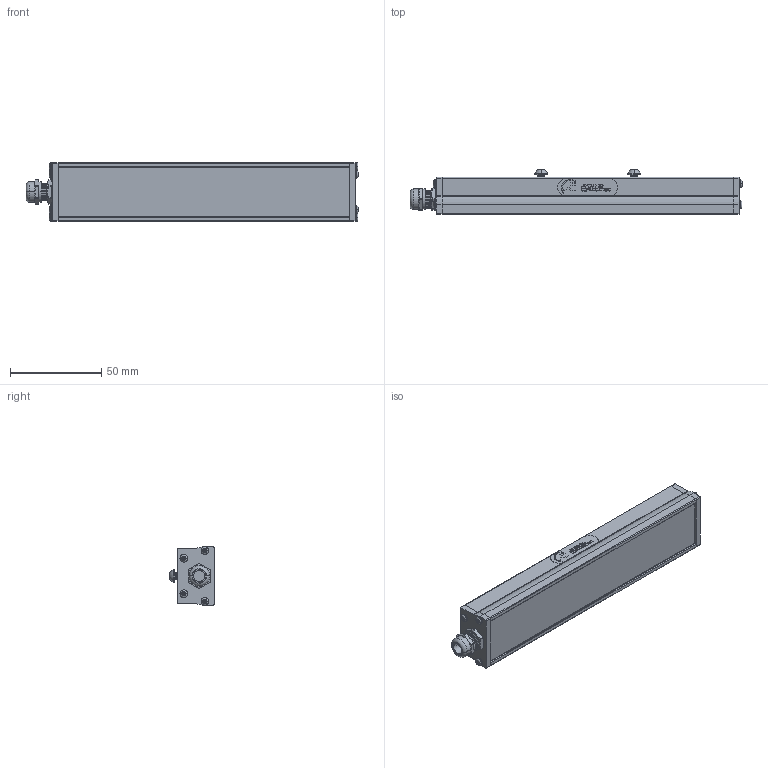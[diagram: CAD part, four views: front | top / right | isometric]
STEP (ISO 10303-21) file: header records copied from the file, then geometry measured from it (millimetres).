
FILE_DESCRIPTION (( 'STEP AP214' ), '1' );
FILE_NAME ('AL116 _NONSEALED__ALL11606.stp', '2021-04-29T14:22:07', ( '' ), ( '' ), 'SwSTEP 2.0', 'SolidWorks 2018', '' );
FILE_SCHEMA (( 'AUTOMOTIVE_DESIGN' ));
Length unit declared in the file: inch
Products named in the file (15): 090888-XX_090888-06; 091052 (116 126); 093469_093469; 090870; 090869; AL116 _NONSEALED__ALL11606; 10mm Label (116 126)_Default<As Machined>; BH-M4x6; 091064_Model_Dome Fittings_Thread Type and Size(Dome)_M10 x 1.5_Hazardous Location-Explosive Proof(ATEX and EExe Versions)_No_; 090878-XX_090878-06; 10mm Swish_Default<As Machined>; 10mm Ai; HN-M4_90592A016; 10mm Advanced illumination; 093474_093474
Assembly tree (24 placements, depth 3):
  AL116 _NONSEALED__ALL11606
    090888-XX_090888-06
    093469_093469  x2
    090869
    090870
    090878-XX_090878-06
    093474_093474  x8
    091064_Model_Dome Fittings_Thread Type and Size(Dome)_M10 x 1.5_Hazardous Location-Explosive Proof(ATEX and EExe Versions)_No_
    091052 (116 126)
      10mm Label (116 126)_Default<As Machined>
      10mm Ai
      10mm Swish_Default<As Machined>
      10mm Advanced illumination
    HN-M4_90592A016  x2
    BH-M4x6  x2
Bounding box: 181.53 x 24.1 x 32.21 mm (x, y, z)
Volume: 35121.9 mm3; surface area: 50863.4 mm2
Topology: 48 solids, 48 shells, 1911 faces, 4942 edges, 3078 vertices
Faces by surface type: cylinder 954, plane 413, cone 362, bspline 122, torus 60
Entity records: 31843 total; most frequent: CARTESIAN_POINT 11151, ORIENTED_EDGE 4280, DIRECTION 3753, EDGE_CURVE 2140, VERTEX_POINT 1366, AXIS2_PLACEMENT_3D 1335, LINE 1083, VECTOR 1083
